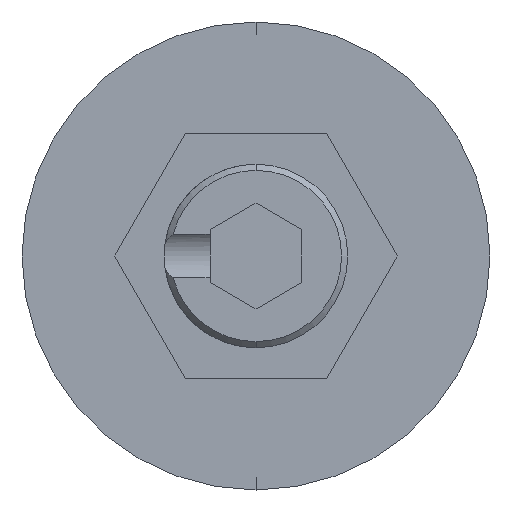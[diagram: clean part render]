
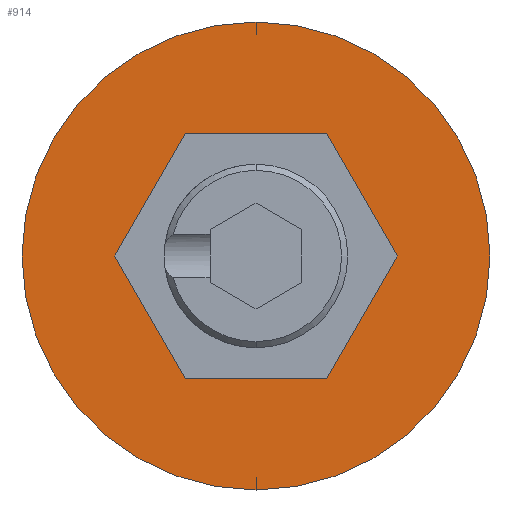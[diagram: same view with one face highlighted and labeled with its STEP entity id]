
A CAD part, front view. The second image highlights one B-rep face of the part: STEP entity #914.
In plain terms, the highlighted planar face has unit normal (0, -1, 0).
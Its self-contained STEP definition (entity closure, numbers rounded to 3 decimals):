
#23 = FACE_OUTER_BOUND ( 'NONE', #1348, .T. ) ;
#40 = VERTEX_POINT ( 'NONE', #1976 ) ;
#76 = VECTOR ( 'NONE', #427, 1000. ) ;
#81 = EDGE_CURVE ( 'NONE', #40, #1954, #204, .T. ) ;
#83 = EDGE_CURVE ( 'NONE', #1754, #1047, #1511, .T. ) ;
#87 = CARTESIAN_POINT ( 'NONE',  ( 4.619, 0., 0. ) ) ;
#95 = CARTESIAN_POINT ( 'NONE',  ( 2.309, 0., 4. ) ) ;
#103 = DIRECTION ( 'NONE',  ( 0., -1., 0. ) ) ;
#150 = VERTEX_POINT ( 'NONE', #777 ) ;
#204 = LINE ( 'NONE', #2111, #1415 ) ;
#244 = DIRECTION ( 'NONE',  ( 0., 0., -1. ) ) ;
#252 = CIRCLE ( 'NONE', #1224, 7.65 ) ;
#284 = DIRECTION ( 'NONE',  ( -0.5, 0., 0.866 ) ) ;
#287 = VECTOR ( 'NONE', #284, 1000. ) ;
#427 = DIRECTION ( 'NONE',  ( 1., 0., 0. ) ) ;
#452 = ORIENTED_EDGE ( 'NONE', *, *, #1338, .F. ) ;
#454 = DIRECTION ( 'NONE',  ( 0., 0., -1. ) ) ;
#456 = CARTESIAN_POINT ( 'NONE',  ( -2.309, 0., 4. ) ) ;
#462 = VERTEX_POINT ( 'NONE', #95 ) ;
#481 = DIRECTION ( 'NONE',  ( 0.5, 0., 0.866 ) ) ;
#526 = EDGE_CURVE ( 'NONE', #150, #1892, #252, .T. ) ;
#537 = VECTOR ( 'NONE', #481, 1000. ) ;
#572 = DIRECTION ( 'NONE',  ( 0., -1., 0. ) ) ;
#601 = CARTESIAN_POINT ( 'NONE',  ( 0., 0., 0. ) ) ;
#623 = EDGE_CURVE ( 'NONE', #1892, #150, #997, .T. ) ;
#689 = ORIENTED_EDGE ( 'NONE', *, *, #623, .T. ) ;
#700 = LINE ( 'NONE', #2026, #287 ) ;
#733 = VECTOR ( 'NONE', #1077, 1000. ) ;
#741 = CARTESIAN_POINT ( 'NONE',  ( 2.309, 0., -4. ) ) ;
#746 = VECTOR ( 'NONE', #1080, 1000. ) ;
#777 = CARTESIAN_POINT ( 'NONE',  ( 0., 0., -7.65 ) ) ;
#892 = CARTESIAN_POINT ( 'NONE',  ( 0., 0., 7.65 ) ) ;
#914 = ADVANCED_FACE ( 'NONE', ( #1768, #23 ), #1363, .T. ) ;
#922 = CARTESIAN_POINT ( 'NONE',  ( 2.309, 0., 4. ) ) ;
#993 = EDGE_CURVE ( 'NONE', #1497, #40, #2039, .T. ) ;
#997 = CIRCLE ( 'NONE', #1361, 7.65 ) ;
#1004 = ORIENTED_EDGE ( 'NONE', *, *, #1765, .F. ) ;
#1047 = VERTEX_POINT ( 'NONE', #87 ) ;
#1077 = DIRECTION ( 'NONE',  ( -0.5, 0., -0.866 ) ) ;
#1080 = DIRECTION ( 'NONE',  ( -1., 0., 0. ) ) ;
#1091 = ORIENTED_EDGE ( 'NONE', *, *, #83, .F. ) ;
#1108 = CARTESIAN_POINT ( 'NONE',  ( -2.309, 0., 4. ) ) ;
#1155 = CARTESIAN_POINT ( 'NONE',  ( -2.309, 0., -4. ) ) ;
#1224 = AXIS2_PLACEMENT_3D ( 'NONE', #601, #1592, #454 ) ;
#1243 = EDGE_CURVE ( 'NONE', #1047, #462, #700, .T. ) ;
#1263 = CARTESIAN_POINT ( 'NONE',  ( 0., 0., 0. ) ) ;
#1315 = EDGE_LOOP ( 'NONE', ( #452, #1926, #1808, #1004, #1823, #1091 ) ) ;
#1336 = LINE ( 'NONE', #1401, #76 ) ;
#1338 = EDGE_CURVE ( 'NONE', #1954, #1754, #1336, .T. ) ;
#1348 = EDGE_LOOP ( 'NONE', ( #1787, #689 ) ) ;
#1361 = AXIS2_PLACEMENT_3D ( 'NONE', #1263, #103, #1922 ) ;
#1363 = PLANE ( 'NONE',  #2118 ) ;
#1392 = CARTESIAN_POINT ( 'NONE',  ( 0., 0., 0. ) ) ;
#1401 = CARTESIAN_POINT ( 'NONE',  ( -2.309, 0., -4. ) ) ;
#1415 = VECTOR ( 'NONE', #1788, 1000. ) ;
#1497 = VERTEX_POINT ( 'NONE', #1108 ) ;
#1511 = LINE ( 'NONE', #1944, #537 ) ;
#1592 = DIRECTION ( 'NONE',  ( 0., -1., 0. ) ) ;
#1626 = LINE ( 'NONE', #922, #746 ) ;
#1754 = VERTEX_POINT ( 'NONE', #741 ) ;
#1765 = EDGE_CURVE ( 'NONE', #462, #1497, #1626, .T. ) ;
#1768 = FACE_BOUND ( 'NONE', #1315, .T. ) ;
#1787 = ORIENTED_EDGE ( 'NONE', *, *, #526, .T. ) ;
#1788 = DIRECTION ( 'NONE',  ( 0.5, 0., -0.866 ) ) ;
#1808 = ORIENTED_EDGE ( 'NONE', *, *, #993, .F. ) ;
#1823 = ORIENTED_EDGE ( 'NONE', *, *, #1243, .F. ) ;
#1892 = VERTEX_POINT ( 'NONE', #892 ) ;
#1922 = DIRECTION ( 'NONE',  ( 0., 0., -1. ) ) ;
#1926 = ORIENTED_EDGE ( 'NONE', *, *, #81, .F. ) ;
#1944 = CARTESIAN_POINT ( 'NONE',  ( 2.309, 0., -4. ) ) ;
#1954 = VERTEX_POINT ( 'NONE', #1155 ) ;
#1976 = CARTESIAN_POINT ( 'NONE',  ( -4.619, 0., 0. ) ) ;
#2026 = CARTESIAN_POINT ( 'NONE',  ( 4.619, 0., 0. ) ) ;
#2039 = LINE ( 'NONE', #456, #733 ) ;
#2111 = CARTESIAN_POINT ( 'NONE',  ( -4.619, 0., 0. ) ) ;
#2118 = AXIS2_PLACEMENT_3D ( 'NONE', #1392, #572, #244 ) ;
